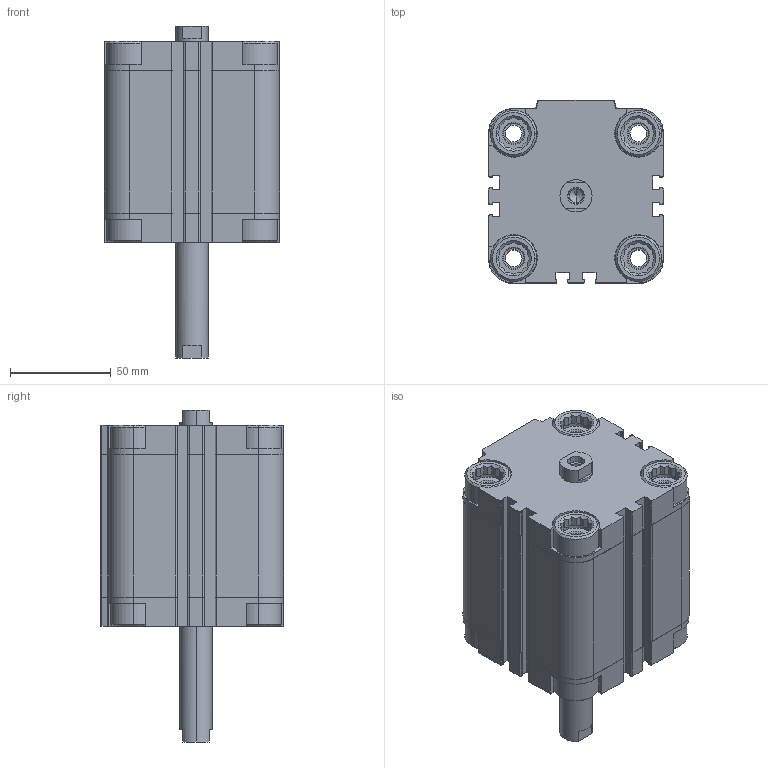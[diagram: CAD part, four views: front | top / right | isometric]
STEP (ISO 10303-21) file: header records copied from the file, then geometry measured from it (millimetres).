
FILE_DESCRIPTION (( 'STEP AP203' ), '1' );
FILE_NAME ('CDVU63-50F-P.STEP', '2020-07-24T18:38:25', ( '' ), ( '' ), 'SwSTEP 2.0', 'SolidWorks 2019', '' );
FILE_SCHEMA (( 'CONFIG_CONTROL_DESIGN' ));
Length unit declared in the file: millimetre
Products named in the file (1): CDVU63-50F-P
Bounding box: 87 x 91 x 165 mm (x, y, z)
Volume: 537751.1 mm3; surface area: 116261.9 mm2
Topology: 2 solids, 2 shells, 622 faces, 1668 edges, 1092 vertices
Faces by surface type: plane 370, cylinder 188, cone 64
Entity records: 19635 total; most frequent: CARTESIAN_POINT 3951, ORIENTED_EDGE 3320, DIRECTION 3170, EDGE_CURVE 1660, VERTEX_POINT 1092, AXIS2_PLACEMENT_3D 1079, LINE 1012, VECTOR 1012
